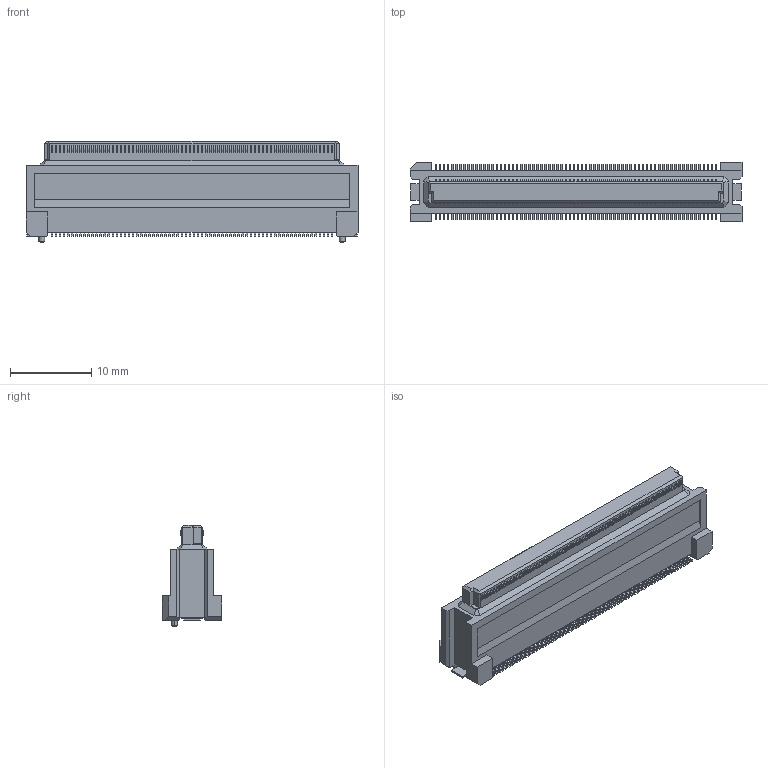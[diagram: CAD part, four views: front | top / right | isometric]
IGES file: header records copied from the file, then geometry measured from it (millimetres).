
Start section: Elysium IGES Interface
Global section: file name: C:\Users\1354\Desktop\DY11-140FS-3.igs; native system: CoCreate Modeling 17.0B  09-Oct-2010; preprocessor: CoCreate IGES_3D V2.2; author: Unknown; organization: Unknown; date: 20170810.100321; units: millimetre
Bounding box: 40.9 x 7.3 x 12.5 mm (x, y, z)
Volume: 1895.9 mm3; surface area: 1753.8 mm2
Topology: 1 solids, 1 shells, 1980 faces, 5453 edges, 3622 vertices
Faces by surface type: bspline 1980
